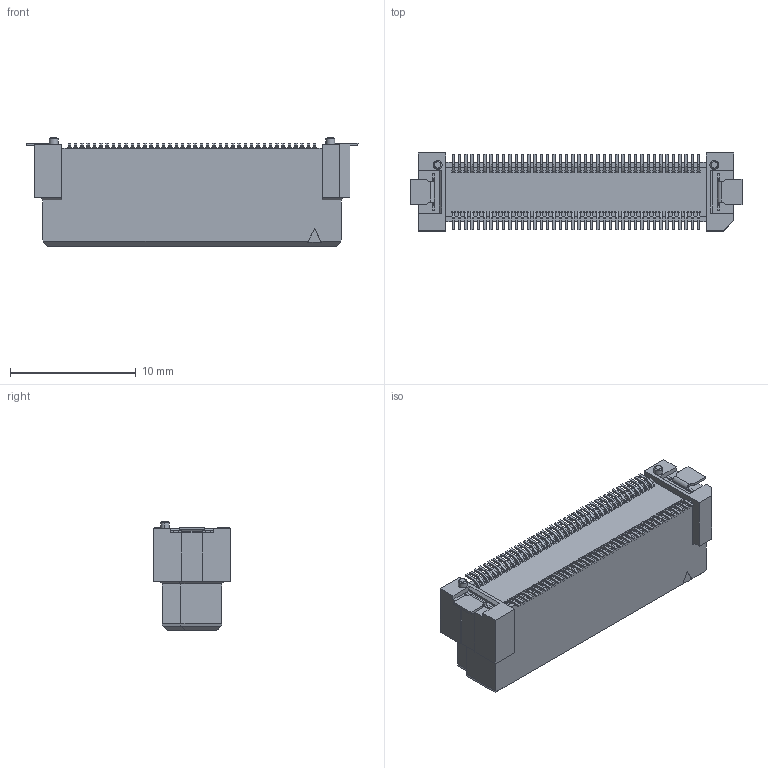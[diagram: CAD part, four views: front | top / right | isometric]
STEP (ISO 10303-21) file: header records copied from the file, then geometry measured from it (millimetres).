
FILE_DESCRIPTION(('Creo Elements/Direct Modeling STEP Export'),'2;1');
FILE_NAME('P3D070_DT11-080S-10-T.stp','2017-08-11T10:47:46',(''),(''),'Creo Elements/Direct Modeling STEP processor for AP214 (Solid Model)','Creo Elements/Direct Modeling 19.0F 14-Feb-2017 (C) Parametric Technology GmbH','');
FILE_SCHEMA(('AUTOMOTIVE_DESIGN { 1 0 10303 214 1 1 1 1 }'));
Products named in the file (2): DT11-080S-10-T
Assembly tree (1 placements, depth 2):
  DT11-080S-10-T
    DT11-080S-10-T
Bounding box: 26.4 x 6.2 x 8.63 mm (x, y, z)
Volume: 808.6 mm3; surface area: 1394 mm2
Topology: 1 solids, 1 shells, 2861 faces, 8080 edges, 5386 vertices
Faces by surface type: plane 2441, cylinder 416, cone 4
Entity records: 90561 total; most frequent: ORIENTED_EDGE 16160, CARTESIAN_POINT 16090, DIRECTION 14481, EDGE_CURVE 8080, VECTOR 6927, LINE 6927, VERTEX_POINT 5386, AXIS2_PLACEMENT_3D 3777
